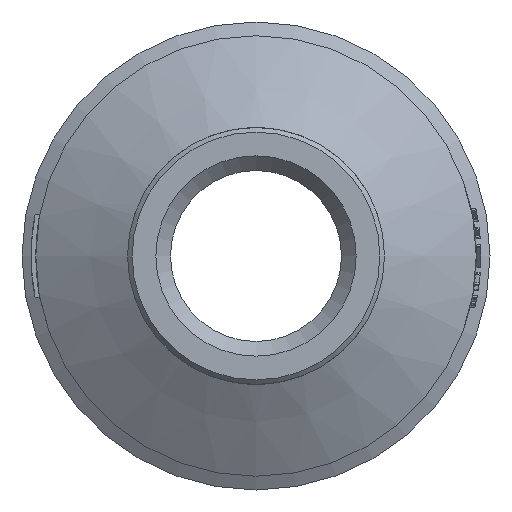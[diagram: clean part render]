
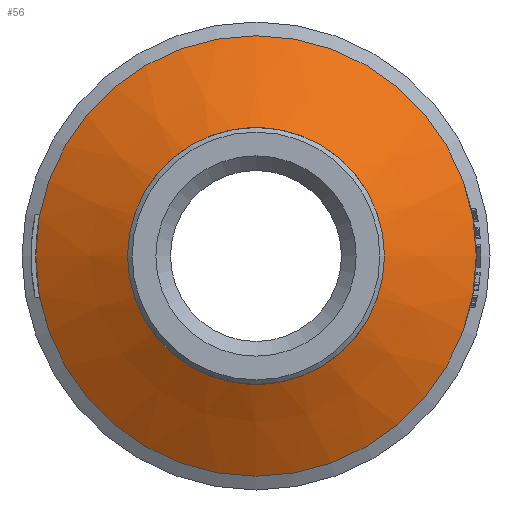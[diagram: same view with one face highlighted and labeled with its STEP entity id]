
A CAD part, front view. The second image highlights one B-rep face of the part: STEP entity #56.
In plain terms, the highlighted conical face has half-angle 60 degrees and reference radius 18.125 mm.
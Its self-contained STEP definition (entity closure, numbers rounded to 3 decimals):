
#56=ADVANCED_FACE('',(#376,#378),#380,.T.);
#376=FACE_BOUND('',#377,.T.);
#377=EDGE_LOOP('',(#1842,#1843,#1844,#1845,#1846,#1847,#1848,#1849,#1850));
#378=FACE_OUTER_BOUND('',#379,.T.);
#379=EDGE_LOOP('',(#1851));
#380=CONICAL_SURFACE('',#381,18.125,1.047);
#381=AXIS2_PLACEMENT_3D('',#382,#383,#384);
#382=CARTESIAN_POINT('',(0.,-21.308,0.));
#383=DIRECTION('',(0.,1.,0.));
#384=DIRECTION('',(1.,0.,0.));
#1842=ORIENTED_EDGE('',*,*,#3429,.F.);
#1843=ORIENTED_EDGE('',*,*,#3430,.F.);
#1844=ORIENTED_EDGE('',*,*,#3420,.F.);
#1845=ORIENTED_EDGE('',*,*,#3431,.F.);
#1846=ORIENTED_EDGE('',*,*,#3432,.F.);
#1847=ORIENTED_EDGE('',*,*,#3433,.F.);
#1848=ORIENTED_EDGE('',*,*,#3434,.F.);
#1849=ORIENTED_EDGE('',*,*,#3416,.F.);
#1850=ORIENTED_EDGE('',*,*,#3427,.F.);
#1851=ORIENTED_EDGE('',*,*,#3435,.F.);
#3416=EDGE_CURVE('',#4047,#4049,#4050,.T.);
#3420=EDGE_CURVE('',#4055,#4057,#4058,.T.);
#3427=EDGE_CURVE('',#4069,#4047,#4070,.T.);
#3429=EDGE_CURVE('',#4072,#4069,#4073,.F.);
#3430=EDGE_CURVE('',#4057,#4072,#4074,.F.);
#3431=EDGE_CURVE('',#4075,#4055,#4076,.T.);
#3432=EDGE_CURVE('',#4077,#4075,#4078,.F.);
#3433=EDGE_CURVE('',#4079,#4077,#4080,.F.);
#3434=EDGE_CURVE('',#4049,#4079,#4081,.F.);
#3435=EDGE_CURVE('',#4082,#4082,#4083,.F.);
#4047=VERTEX_POINT('',#5122);
#4049=VERTEX_POINT('',#5126);
#4050=CIRCLE('',#5127,14.);
#4055=VERTEX_POINT('',#5140);
#4057=VERTEX_POINT('',#5144);
#4058=CIRCLE('',#5145,14.);
#4069=VERTEX_POINT('',#5180);
#4070=B_SPLINE_CURVE_WITH_KNOTS('',3,
(#5181,#5182,#5183,#5184,#5185,#5186,#5187,#5188,#5189),
.UNSPECIFIED.,.F.,.F.,
(4,1,1,1,1,1,4),
(0.,0.115,0.274,0.479,0.69,0.865,
1.),
.UNSPECIFIED.);
#4072=VERTEX_POINT('',#5193);
#4073=CIRCLE('',#5194,12.25);
#4074=B_SPLINE_CURVE_WITH_KNOTS('',3,
(#5198,#5199,#5200,#5201,#5202,#5203,#5204,#5205,#5206),
.UNSPECIFIED.,.F.,.F.,
(4,1,1,1,1,1,4),
(0.,0.115,0.274,0.479,0.69,0.865,
1.),
.UNSPECIFIED.);
#4075=VERTEX_POINT('',#5207);
#4076=B_SPLINE_CURVE_WITH_KNOTS('',3,
(#5208,#5209,#5210,#5211,#5212,#5213,#5214,#5215,#5216),
.UNSPECIFIED.,.F.,.F.,
(4,1,1,1,1,1,4),
(0.,0.115,0.274,0.479,0.69,0.865,
1.),
.UNSPECIFIED.);
#4077=VERTEX_POINT('',#5217);
#4078=CIRCLE('',#5218,12.25);
#4079=VERTEX_POINT('',#5222);
#4080=CIRCLE('',#5223,12.25);
#4081=B_SPLINE_CURVE_WITH_KNOTS('',3,
(#5227,#5228,#5229,#5230,#5231,#5232,#5233,#5234,#5235),
.UNSPECIFIED.,.F.,.F.,
(4,1,1,1,1,1,4),
(0.,0.115,0.274,0.479,0.69,0.865,
1.),
.UNSPECIFIED.);
#4082=VERTEX_POINT('',#5236);
#4083=CIRCLE('',#5237,24.);
#5122=CARTESIAN_POINT('',(2.5,-23.69,13.775));
#5126=CARTESIAN_POINT('',(-2.5,-23.69,13.775));
#5127=AXIS2_PLACEMENT_3D('',#5128,#5129,#5130);
#5128=CARTESIAN_POINT('',(0.,-23.69,0.));
#5129=DIRECTION('',(0.,-1.,0.));
#5130=DIRECTION('',(0.179,0.,0.984));
#5140=CARTESIAN_POINT('',(-2.5,-23.69,-13.775));
#5144=CARTESIAN_POINT('',(2.5,-23.69,-13.775));
#5145=AXIS2_PLACEMENT_3D('',#5146,#5147,#5148);
#5146=CARTESIAN_POINT('',(0.,-23.69,0.));
#5147=DIRECTION('',(0.,-1.,0.));
#5148=DIRECTION('',(-0.179,0.,-0.984));
#5180=CARTESIAN_POINT('',(3.009,-24.7,11.875));
#5181=CARTESIAN_POINT('',(3.009,-24.7,11.875));
#5182=CARTESIAN_POINT('',(2.99,-24.662,11.948));
#5183=CARTESIAN_POINT('',(2.943,-24.571,12.122));
#5184=CARTESIAN_POINT('',(2.861,-24.411,12.426));
#5185=CARTESIAN_POINT('',(2.764,-24.218,12.79));
#5186=CARTESIAN_POINT('',(2.663,-24.018,13.165));
#5187=CARTESIAN_POINT('',(2.575,-23.841,13.494));
#5188=CARTESIAN_POINT('',(2.523,-23.736,13.69));
#5189=CARTESIAN_POINT('',(2.5,-23.69,13.775));
#5193=CARTESIAN_POINT('',(3.009,-24.7,-11.875));
#5194=AXIS2_PLACEMENT_3D('',#5195,#5196,#5197);
#5195=CARTESIAN_POINT('',(0.,-24.7,0.));
#5196=DIRECTION('',(0.,1.,0.));
#5197=DIRECTION('',(0.246,0.,0.969));
#5198=CARTESIAN_POINT('',(3.009,-24.7,-11.875));
#5199=CARTESIAN_POINT('',(2.99,-24.662,-11.948));
#5200=CARTESIAN_POINT('',(2.943,-24.571,-12.122));
#5201=CARTESIAN_POINT('',(2.861,-24.411,-12.426));
#5202=CARTESIAN_POINT('',(2.764,-24.218,-12.79));
#5203=CARTESIAN_POINT('',(2.663,-24.018,-13.165));
#5204=CARTESIAN_POINT('',(2.575,-23.841,-13.494));
#5205=CARTESIAN_POINT('',(2.523,-23.736,-13.69));
#5206=CARTESIAN_POINT('',(2.5,-23.69,-13.775));
#5207=CARTESIAN_POINT('',(-3.009,-24.7,-11.875));
#5208=CARTESIAN_POINT('',(-3.009,-24.7,-11.875));
#5209=CARTESIAN_POINT('',(-2.99,-24.662,-11.948));
#5210=CARTESIAN_POINT('',(-2.943,-24.571,-12.122));
#5211=CARTESIAN_POINT('',(-2.861,-24.411,-12.426));
#5212=CARTESIAN_POINT('',(-2.764,-24.218,-12.79));
#5213=CARTESIAN_POINT('',(-2.663,-24.018,-13.165));
#5214=CARTESIAN_POINT('',(-2.575,-23.841,-13.494));
#5215=CARTESIAN_POINT('',(-2.523,-23.736,-13.69));
#5216=CARTESIAN_POINT('',(-2.5,-23.69,-13.775));
#5217=CARTESIAN_POINT('',(-12.25,-24.7,0.));
#5218=AXIS2_PLACEMENT_3D('',#5219,#5220,#5221);
#5219=CARTESIAN_POINT('',(0.,-24.7,0.));
#5220=DIRECTION('',(0.,1.,0.));
#5221=DIRECTION('',(-0.246,0.,-0.969));
#5222=CARTESIAN_POINT('',(-3.009,-24.7,11.875));
#5223=AXIS2_PLACEMENT_3D('',#5224,#5225,#5226);
#5224=CARTESIAN_POINT('',(0.,-24.7,0.));
#5225=DIRECTION('',(0.,1.,0.));
#5226=DIRECTION('',(-1.,0.,0.));
#5227=CARTESIAN_POINT('',(-3.009,-24.7,11.875));
#5228=CARTESIAN_POINT('',(-2.99,-24.662,11.948));
#5229=CARTESIAN_POINT('',(-2.943,-24.571,12.122));
#5230=CARTESIAN_POINT('',(-2.861,-24.411,12.426));
#5231=CARTESIAN_POINT('',(-2.764,-24.218,12.79));
#5232=CARTESIAN_POINT('',(-2.663,-24.018,13.165));
#5233=CARTESIAN_POINT('',(-2.575,-23.841,13.494));
#5234=CARTESIAN_POINT('',(-2.523,-23.736,13.69));
#5235=CARTESIAN_POINT('',(-2.5,-23.69,13.775));
#5236=CARTESIAN_POINT('',(-24.,-17.916,0.));
#5237=AXIS2_PLACEMENT_3D('',#5238,#5239,#5240);
#5238=CARTESIAN_POINT('',(0.,-17.916,0.));
#5239=DIRECTION('',(0.,-1.,0.));
#5240=DIRECTION('',(-1.,0.,0.));
